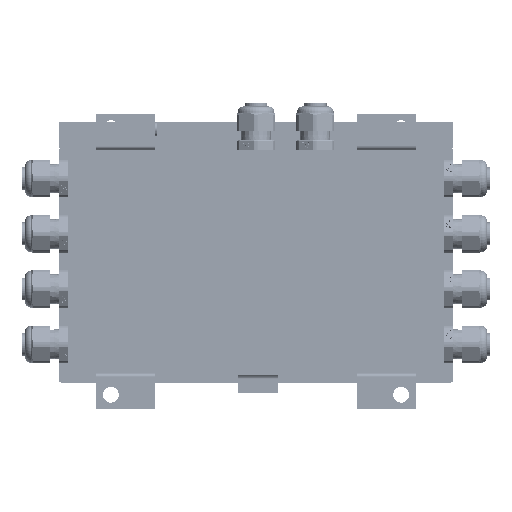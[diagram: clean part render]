
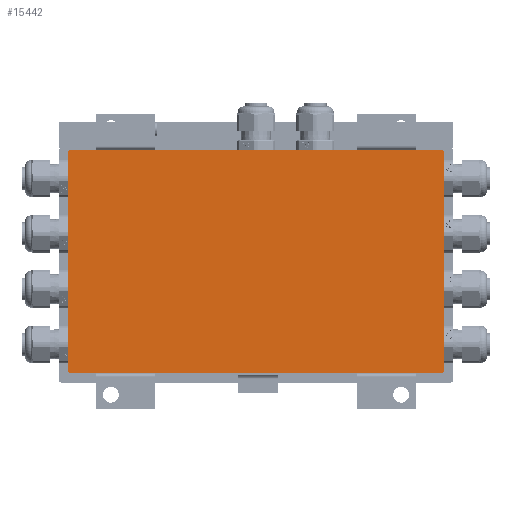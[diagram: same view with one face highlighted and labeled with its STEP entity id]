
A CAD part, front view. The second image highlights one B-rep face of the part: STEP entity #15442.
In plain terms, the highlighted planar face has unit normal (0, -1, 0).
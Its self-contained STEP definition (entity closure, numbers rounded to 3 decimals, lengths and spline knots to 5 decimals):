
#15442=ADVANCED_FACE('4151:1404',(#27713),#27714,.F.);
#27713=FACE_OUTER_BOUND('',#44977,.T.);
#27714=PLANE('',#44978);
#44977=EDGE_LOOP('',(#69829,#69830,#69831,#69832,#69833,#69834,#69835,#69836));
#44978=AXIS2_PLACEMENT_3D('',#69837,#69838,#69839);
#69829=ORIENTED_EDGE('',*,*,#87212,.F.);
#69830=ORIENTED_EDGE('',*,*,#87152,.F.);
#69831=ORIENTED_EDGE('',*,*,#87213,.F.);
#69832=ORIENTED_EDGE('',*,*,#87026,.F.);
#69833=ORIENTED_EDGE('',*,*,#87214,.F.);
#69834=ORIENTED_EDGE('',*,*,#87166,.F.);
#69835=ORIENTED_EDGE('',*,*,#87215,.F.);
#69836=ORIENTED_EDGE('',*,*,#86912,.F.);
#69837=CARTESIAN_POINT('',(-0.095,0.0,-0.0475));
#69838=DIRECTION('',(0.,1.0,0.));
#69839=DIRECTION('',(1.0,0.,0.));
#86912=EDGE_CURVE('4151:1962',#105705,#105707,#105708,.F.);
#87026=EDGE_CURVE('4151:1455',#105884,#105886,#105887,.T.);
#87152=EDGE_CURVE('4151:2148',#106077,#106079,#106080,.T.);
#87166=EDGE_CURVE('4151:2190',#106095,#106097,#106098,.F.);
#87212=EDGE_CURVE('4151:2328',#106079,#105705,#106164,.T.);
#87213=EDGE_CURVE('4151:2331',#105886,#106077,#106165,.F.);
#87214=EDGE_CURVE('4151:2334',#106097,#105884,#106166,.T.);
#87215=EDGE_CURVE('4151:2337',#105707,#106095,#106167,.F.);
#105705=VERTEX_POINT('',#127077);
#105707=VERTEX_POINT('',#127080);
#105708=LINE('',#127081,#127082);
#105884=VERTEX_POINT('',#127333);
#105886=VERTEX_POINT('',#127336);
#105887=LINE('',#127337,#127338);
#106077=VERTEX_POINT('',#127614);
#106079=VERTEX_POINT('',#127617);
#106080=LINE('',#127618,#127619);
#106095=VERTEX_POINT('',#127638);
#106097=VERTEX_POINT('',#127641);
#106098=LINE('',#127642,#127643);
#106164=CIRCLE('',#127734,0.001);
#106165=CIRCLE('',#127735,0.001);
#106166=CIRCLE('',#127736,0.001);
#106167=CIRCLE('',#127737,0.001);
#127077=CARTESIAN_POINT('',(0.094,0.0,-0.0475));
#127080=CARTESIAN_POINT('',(-0.094,0.0,-0.0475));
#127081=CARTESIAN_POINT('',(-0.095,0.0,-0.0475));
#127082=VECTOR('',#139769,1.0);
#127333=CARTESIAN_POINT('',(-0.094,0.0,0.0655));
#127336=CARTESIAN_POINT('',(0.094,0.0,0.0655));
#127337=CARTESIAN_POINT('',(-0.095,0.0,0.0655));
#127338=VECTOR('',#139957,1.0);
#127614=CARTESIAN_POINT('',(0.095,0.0,0.0645));
#127617=CARTESIAN_POINT('',(0.095,0.0,-0.0465));
#127618=CARTESIAN_POINT('',(0.095,0.0,-0.0475));
#127619=VECTOR('',#140159,1.0);
#127638=CARTESIAN_POINT('',(-0.095,0.0,-0.0465));
#127641=CARTESIAN_POINT('',(-0.095,0.0,0.0645));
#127642=CARTESIAN_POINT('',(-0.095,0.0,-0.0475));
#127643=VECTOR('',#140189,1.0);
#127734=AXIS2_PLACEMENT_3D('',#140275,#140276,#140277);
#127735=AXIS2_PLACEMENT_3D('',#140278,#140279,#140280);
#127736=AXIS2_PLACEMENT_3D('',#140281,#140282,#140283);
#127737=AXIS2_PLACEMENT_3D('',#140284,#140285,#140286);
#139769=DIRECTION('',(1.0,0.,0.));
#139957=DIRECTION('',(1.0,0.,0.));
#140159=DIRECTION('',(0.,0.0,-1.0));
#140189=DIRECTION('',(0.,0.0,-1.0));
#140275=CARTESIAN_POINT('',(0.094,0.0,-0.0465));
#140276=DIRECTION('',(0.0,1.0,0.0));
#140277=DIRECTION('',(0.,0.0,-1.0));
#140278=CARTESIAN_POINT('',(0.094,0.0,0.0645));
#140279=DIRECTION('',(0.0,-1.0,0.0));
#140280=DIRECTION('',(0.,0.0,1.0));
#140281=CARTESIAN_POINT('',(-0.094,0.0,0.0645));
#140282=DIRECTION('',(0.0,1.0,0.0));
#140283=DIRECTION('',(0.,0.0,-1.0));
#140284=CARTESIAN_POINT('',(-0.094,0.0,-0.0465));
#140285=DIRECTION('',(0.0,-1.0,0.0));
#140286=DIRECTION('',(0.,0.0,1.0));
